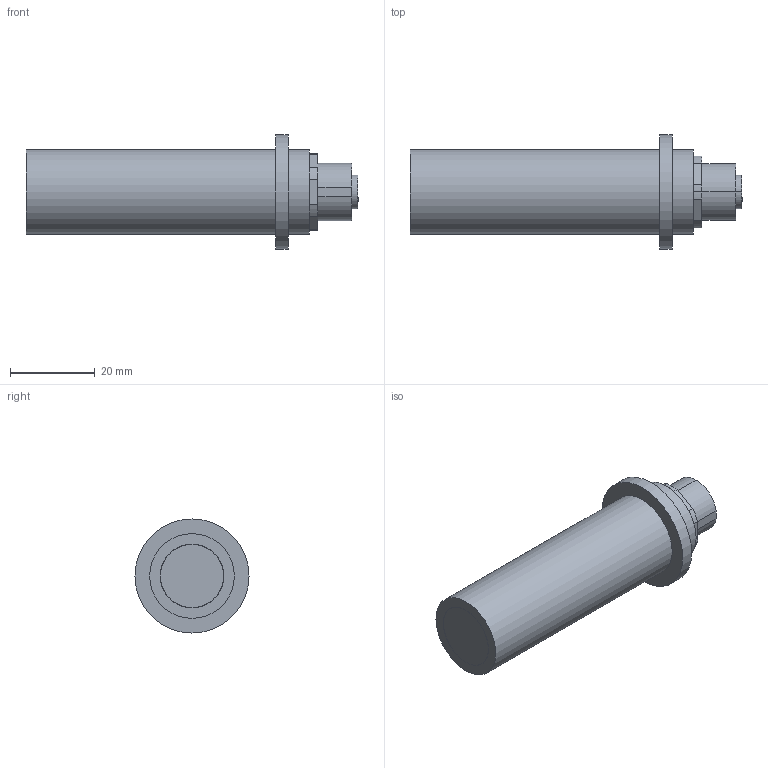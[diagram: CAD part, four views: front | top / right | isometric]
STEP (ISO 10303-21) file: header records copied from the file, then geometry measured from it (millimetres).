
FILE_DESCRIPTION (( 'STEP AP203' ), '1' );
FILE_NAME ('Zusammenbau_DVGW_Sensor_V1_defeature.STEP', '2026-09-02T08:00:11', ( '' ), ( '' ), 'SwSTEP 2.0', 'SolidWorks 2025', '' );
FILE_SCHEMA (( 'CONFIG_CONTROL_DESIGN' ));
Length unit declared in the file: millimetre
Products named in the file (1): Zusammenbau_DVGW_Sensor_V1_defeature
Bounding box: 78.5 x 27 x 27 mm (x, y, z)
Volume: 24835.6 mm3; surface area: 8349.6 mm2
Topology: 3 solids, 3 shells, 105 faces, 240 edges, 159 vertices
Faces by surface type: cylinder 54, plane 47, bspline 4
Full cylindrical faces by diameter (mm): 15 x1, 20 x2, 27 x1
Entity records: 3206 total; most frequent: CARTESIAN_POINT 666, DIRECTION 557, ORIENTED_EDGE 472, EDGE_CURVE 236, AXIS2_PLACEMENT_3D 221, VERTEX_POINT 159, EDGE_LOOP 127, CIRCLE 119
